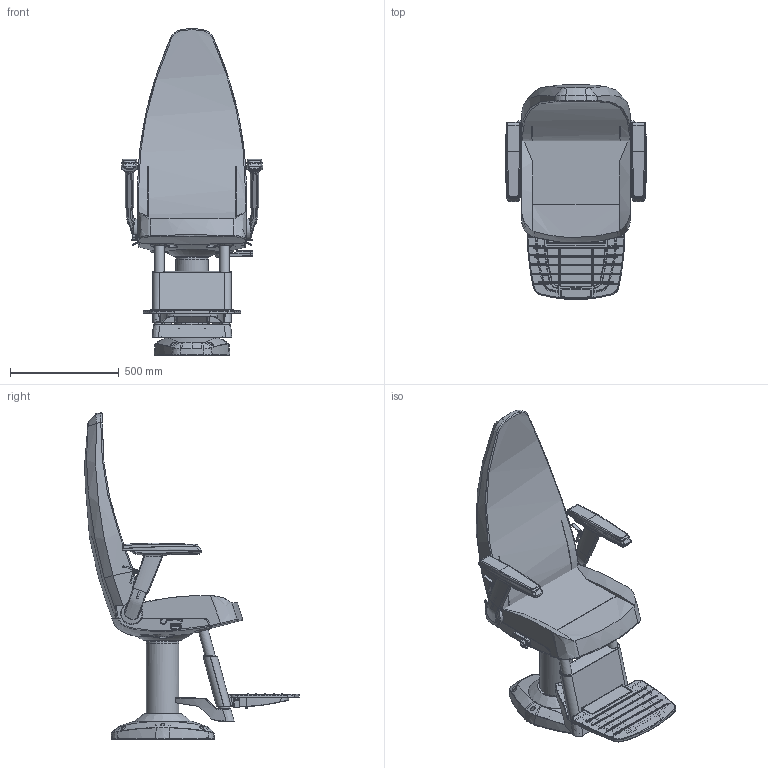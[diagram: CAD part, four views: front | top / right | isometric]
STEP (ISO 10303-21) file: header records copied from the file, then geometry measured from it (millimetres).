
FILE_DESCRIPTION (( 'STEP AP214' ), '1' );
FILE_NAME ('ALU 630_02.0_simple.STEP', '2016-06-15T05:05:12', ( 'NIDD' ), ( '' ), 'SwSTEP 2.0', 'SolidWorks 2016', '' );
FILE_SCHEMA (( 'AUTOMOTIVE_DESIGN' ));
Length unit declared in the file: millimetre
Products named in the file (1): ALU 630_02.0_simple
Bounding box: 650.24 x 988.58 x 1503.8 mm (x, y, z)
Surface area: 5154864.3 mm2 (no closed solid volume)
Topology: 0 solids, 268 shells, 2810 faces, 13100 edges, 10128 vertices
Faces by surface type: bspline 877, plane 820, cylinder 559, cone 309, torus 218, sphere 27
Full cylindrical faces by diameter (mm): 4.917 x5, 6 x2, 6.2 x2, 8 x3, 8.3 x2, 8.376 x3, 9.2 x1, 10 x7, 13 x4, 16 x3, 19 x3, 20 x5, 22 x1, 24.2 x1, 28 x1, 41 x2, 45 x2, 45.5 x2, 48 x2, 150 x1, 151 x2, 161 x1
Entity records: 246135 total; most frequent: CARTESIAN_POINT 127897, ORIENTED_EDGE 17330, DIRECTION 14131, EDGE_CURVE 12838, VERTEX_POINT 10043, AXIS2_PLACEMENT_3D 5023, B_SPLINE_CURVE_WITH_KNOTS 4523, VECTOR 4085
